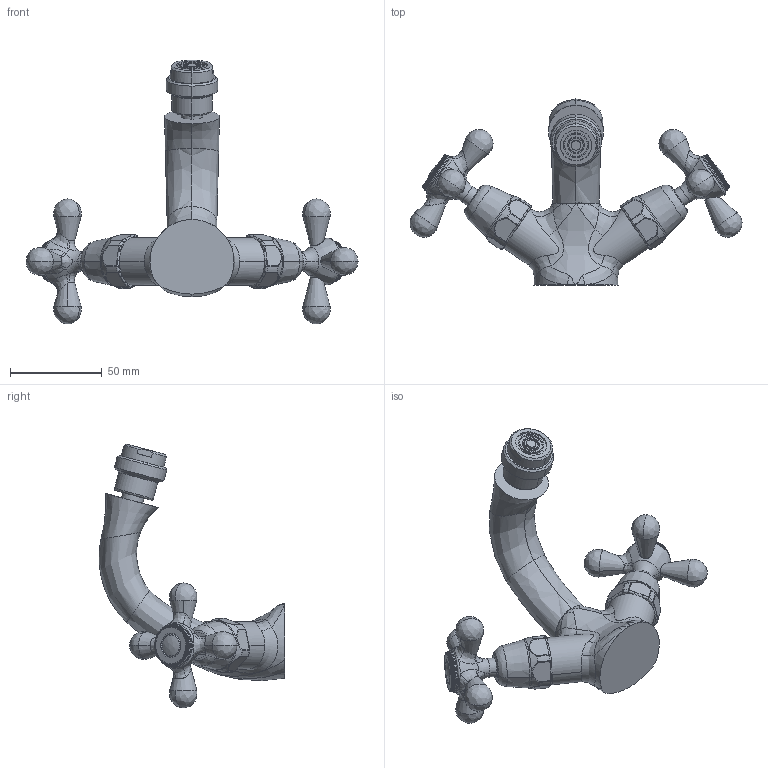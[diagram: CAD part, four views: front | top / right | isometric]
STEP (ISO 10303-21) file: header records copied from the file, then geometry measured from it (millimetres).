
FILE_DESCRIPTION (( 'STEP AP214' ), '1' );
FILE_NAME ('kran.STEP', '2020-04-29T17:14:29', ( '' ), ( '' ), 'SwSTEP 2.0', 'SolidWorks 2017', '' );
FILE_SCHEMA (( 'AUTOMOTIVE_DESIGN' ));
Products named in the file (1): kran
Bounding box: 181.3 x 101.55 x 144.09 mm (x, y, z)
Surface area: 38259.2 mm2 (no closed solid volume)
Topology: 0 solids, 3 shells, 5383 faces, 12744 edges, 7363 vertices
Faces by surface type: bspline 2832, cylinder 1648, plane 491, torus 327, sphere 53, cone 32
Entity records: 210539 total; most frequent: CARTESIAN_POINT 106845, ORIENTED_EDGE 25431, DIRECTION 17090, EDGE_CURVE 12725, VERTEX_POINT 7363, AXIS2_PLACEMENT_3D 7350, EDGE_LOOP 5401, FACE_OUTER_BOUND 5383
